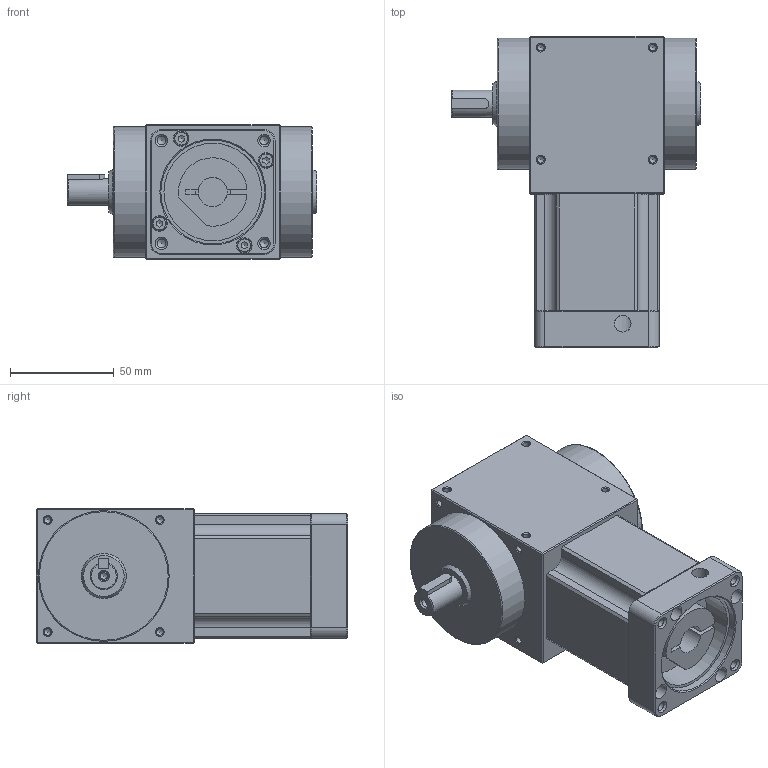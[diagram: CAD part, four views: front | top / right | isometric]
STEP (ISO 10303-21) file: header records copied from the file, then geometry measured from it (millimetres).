
FILE_DESCRIPTION((''),'2;1');
FILE_NAME('D:\유성\SBT 베벨기어박스\최종도면모음\3D\SBT065\홈페이지용\SBT065PLS003~010K.stp','2014-05-20T09:11:25',('nagyu'),(''),'Autodesk Inventor 2013','Autodesk Inventor 2013','');
FILE_SCHEMA(('AUTOMOTIVE_DESIGN { 1 0 10303 214 1 1 1 1 }'));
Length unit declared in the file: millimetre
Products named in the file (1): SBT065PLS003~010K_Shrinkwrap_1
Bounding box: 120 x 150 x 65 mm (x, y, z)
Volume: 633004.9 mm3; surface area: 63771.3 mm2
Topology: 1 solids, 5 shells, 291 faces, 746 edges, 457 vertices
Faces by surface type: plane 118, cylinder 93, cone 69, torus 11
Full cylindrical faces by diameter (mm): 3.242 x41, 4 x6, 4.134 x4, 4.3 x1, 4.5 x4, 7 x4, 7.5 x4, 8 x1, 13 x1, 14 x1, 17 x1, 21.7 x2, 47 x1, 50 x1, 63 x2
Entity records: 7563 total; most frequent: DIRECTION 1356, CARTESIAN_POINT 1325, ORIENTED_EDGE 1060, AXIS2_PLACEMENT_3D 563, EDGE_CURVE 530, EDGE_LOOP 464, VERTEX_POINT 386, FACE_OUTER_BOUND 291
